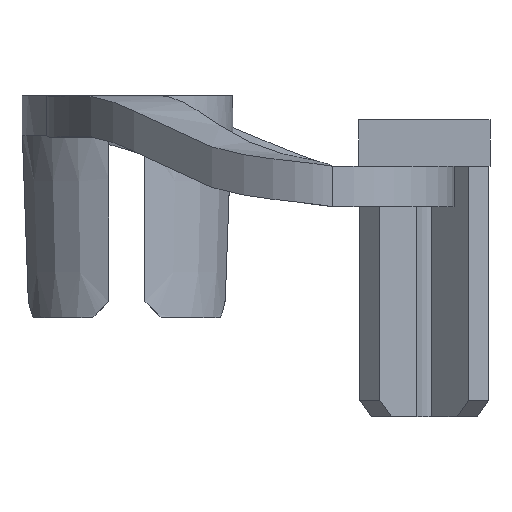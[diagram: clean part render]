
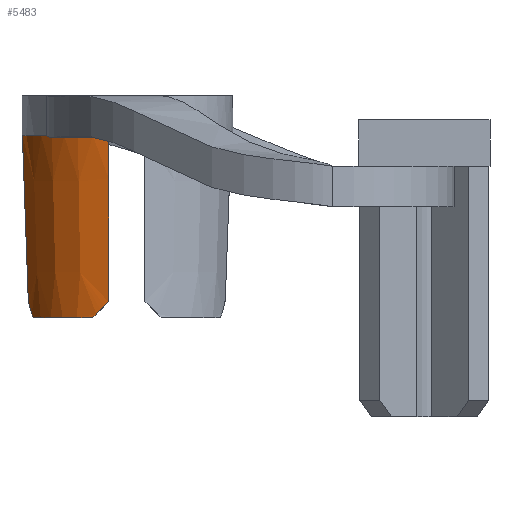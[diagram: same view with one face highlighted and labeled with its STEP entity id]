
A CAD part, left-side view. The second image highlights one B-rep face of the part: STEP entity #5483.
In plain terms, the highlighted conical face has half-angle 2 degrees and reference radius 2.62 mm.
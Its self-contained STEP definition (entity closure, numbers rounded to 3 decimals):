
#1390 = PLANE('',#1391);
#1391 = AXIS2_PLACEMENT_3D('',#1392,#1393,#1394);
#1392 = CARTESIAN_POINT('',(0.225,3.725,-1.));
#1393 = DIRECTION('',(-0.,-0.,-1.));
#1394 = DIRECTION('',(-1.,0.,0.));
#3467 = VERTEX_POINT('',#3468);
#3468 = CARTESIAN_POINT('',(-0.22,5.111,-1.));
#3482 = PLANE('',#3483);
#3483 = AXIS2_PLACEMENT_3D('',#3484,#3485,#3486);
#3484 = CARTESIAN_POINT('',(-0.22,3.667,-5.5));
#3485 = DIRECTION('',(-1.,0.,0.));
#3486 = DIRECTION('',(0.,1.,0.));
#3494 = EDGE_CURVE('',#3495,#3467,#3497,.T.);
#3495 = VERTEX_POINT('',#3496);
#3496 = CARTESIAN_POINT('',(-2.351,2.98,-1.));
#3497 = SURFACE_CURVE('',#3498,(#3503,#3510),.PCURVE_S1.);
#3498 = CIRCLE('',#3499,2.62);
#3499 = AXIS2_PLACEMENT_3D('',#3500,#3501,#3502);
#3500 = CARTESIAN_POINT('',(0.23,2.53,-1.));
#3501 = DIRECTION('',(0.,0.,-1.));
#3502 = DIRECTION('',(1.,0.,0.));
#3503 = PCURVE('',#1390,#3504);
#3504 = DEFINITIONAL_REPRESENTATION('',(#3505),#3509);
#3505 = CIRCLE('',#3506,2.62);
#3506 = AXIS2_PLACEMENT_2D('',#3507,#3508);
#3507 = CARTESIAN_POINT('',(-0.005,-1.195));
#3508 = DIRECTION('',(-1.,0.));
#3509 = ( GEOMETRIC_REPRESENTATION_CONTEXT(2) 
PARAMETRIC_REPRESENTATION_CONTEXT() REPRESENTATION_CONTEXT('2D SPACE',''
  ) );
#3510 = PCURVE('',#3511,#3516);
#3511 = CONICAL_SURFACE('',#3512,2.62,0.035);
#3512 = AXIS2_PLACEMENT_3D('',#3513,#3514,#3515);
#3513 = CARTESIAN_POINT('',(0.23,2.53,-1.));
#3514 = DIRECTION('',(0.,0.,1.));
#3515 = DIRECTION('',(1.,0.,0.));
#3516 = DEFINITIONAL_REPRESENTATION('',(#3517),#3521);
#3517 = LINE('',#3518,#3519);
#3518 = CARTESIAN_POINT('',(-0.,-0.));
#3519 = VECTOR('',#3520,1.);
#3520 = DIRECTION('',(-1.,-0.));
#3521 = ( GEOMETRIC_REPRESENTATION_CONTEXT(2) 
PARAMETRIC_REPRESENTATION_CONTEXT() REPRESENTATION_CONTEXT('2D SPACE',''
  ) );
#3539 = PLANE('',#3540);
#3540 = AXIS2_PLACEMENT_3D('',#3541,#3542,#3543);
#3541 = CARTESIAN_POINT('',(-2.907,2.98,-5.5));
#3542 = DIRECTION('',(0.,1.,0.));
#3543 = DIRECTION('',(1.,0.,0.));
#4860 = PLANE('',#4861);
#4861 = AXIS2_PLACEMENT_3D('',#4862,#4863,#4864);
#4862 = CARTESIAN_POINT('',(-0.42,4.013,-5.3));
#4863 = DIRECTION('',(-0.707,0.,0.707));
#4864 = DIRECTION('',(0.,1.,0.));
#4889 = PLANE('',#4890);
#4890 = AXIS2_PLACEMENT_3D('',#4891,#4892,#4893);
#4891 = CARTESIAN_POINT('',(0.23,2.53,-5.5));
#4892 = DIRECTION('',(0.,0.,-1.));
#4893 = DIRECTION('',(1.,0.,0.));
#4921 = PLANE('',#4922);
#4922 = AXIS2_PLACEMENT_3D('',#4923,#4924,#4925);
#4923 = CARTESIAN_POINT('',(-2.191,3.18,-5.3));
#4924 = DIRECTION('',(0.,0.707,0.707));
#4925 = DIRECTION('',(1.,0.,0.));
#5434 = EDGE_CURVE('',#5435,#3467,#5437,.T.);
#5435 = VERTEX_POINT('',#5436);
#5436 = CARTESIAN_POINT('',(-0.22,4.966,-5.1));
#5437 = SURFACE_CURVE('',#5438,(#5443,#5450),.PCURVE_S1.);
#5438 = HYPERBOLA('',#5439,12.886,0.45);
#5439 = AXIS2_PLACEMENT_3D('',#5440,#5441,#5442);
#5440 = CARTESIAN_POINT('',(-0.22,2.53,-76.027));
#5441 = DIRECTION('',(-1.,0.,0.));
#5442 = DIRECTION('',(0.,0.,1.));
#5443 = PCURVE('',#3482,#5444);
#5444 = DEFINITIONAL_REPRESENTATION('',(#5445),#5449);
#5445 = HYPERBOLA('',#5446,12.886,0.45);
#5446 = AXIS2_PLACEMENT_2D('',#5447,#5448);
#5447 = CARTESIAN_POINT('',(-1.137,70.527));
#5448 = DIRECTION('',(0.,-1.));
#5449 = ( GEOMETRIC_REPRESENTATION_CONTEXT(2) 
PARAMETRIC_REPRESENTATION_CONTEXT() REPRESENTATION_CONTEXT('2D SPACE',''
  ) );
#5450 = PCURVE('',#3511,#5451);
#5451 = DEFINITIONAL_REPRESENTATION('',(#5452),#5459);
#5452 = B_SPLINE_CURVE_WITH_KNOTS('',5,(#5453,#5454,#5455,#5456,#5457,
    #5458),.UNSPECIFIED.,.F.,.F.,(6,6),(2.385,2.447),
  .PIECEWISE_BEZIER_KNOTS.);
#5453 = CARTESIAN_POINT('',(-4.529,-4.5));
#5454 = CARTESIAN_POINT('',(-4.531,-3.628));
#5455 = CARTESIAN_POINT('',(-4.533,-2.743));
#5456 = CARTESIAN_POINT('',(-4.535,-1.843));
#5457 = CARTESIAN_POINT('',(-4.538,-0.929));
#5458 = CARTESIAN_POINT('',(-4.54,0.));
#5459 = ( GEOMETRIC_REPRESENTATION_CONTEXT(2) 
PARAMETRIC_REPRESENTATION_CONTEXT() REPRESENTATION_CONTEXT('2D SPACE',''
  ) );
#5483 = ADVANCED_FACE('',(#5484),#3511,.T.);
#5484 = FACE_BOUND('',#5485,.T.);
#5485 = EDGE_LOOP('',(#5486,#5513,#5514,#5515,#5542,#5566));
#5486 = ORIENTED_EDGE('',*,*,#5487,.F.);
#5487 = EDGE_CURVE('',#3495,#5488,#5490,.T.);
#5488 = VERTEX_POINT('',#5489);
#5489 = CARTESIAN_POINT('',(-2.206,2.98,-5.1));
#5490 = SURFACE_CURVE('',#5491,(#5496,#5506),.PCURVE_S1.);
#5491 = HYPERBOLA('',#5492,12.886,0.45);
#5492 = AXIS2_PLACEMENT_3D('',#5493,#5494,#5495);
#5493 = CARTESIAN_POINT('',(0.23,2.98,-76.027));
#5494 = DIRECTION('',(0.,1.,0.));
#5495 = DIRECTION('',(0.,0.,1.));
#5496 = PCURVE('',#3511,#5497);
#5497 = DEFINITIONAL_REPRESENTATION('',(#5498),#5505);
#5498 = B_SPLINE_CURVE_WITH_KNOTS('',5,(#5499,#5500,#5501,#5502,#5503,
    #5504),.UNSPECIFIED.,.F.,.F.,(6,6),(-2.447,-2.385)
  ,.PIECEWISE_BEZIER_KNOTS.);
#5499 = CARTESIAN_POINT('',(-3.314,0.));
#5500 = CARTESIAN_POINT('',(-3.316,-0.929));
#5501 = CARTESIAN_POINT('',(-3.319,-1.843));
#5502 = CARTESIAN_POINT('',(-3.321,-2.743));
#5503 = CARTESIAN_POINT('',(-3.323,-3.628));
#5504 = CARTESIAN_POINT('',(-3.325,-4.5));
#5505 = ( GEOMETRIC_REPRESENTATION_CONTEXT(2) 
PARAMETRIC_REPRESENTATION_CONTEXT() REPRESENTATION_CONTEXT('2D SPACE',''
  ) );
#5506 = PCURVE('',#3539,#5507);
#5507 = DEFINITIONAL_REPRESENTATION('',(#5508),#5512);
#5508 = HYPERBOLA('',#5509,12.886,0.45);
#5509 = AXIS2_PLACEMENT_2D('',#5510,#5511);
#5510 = CARTESIAN_POINT('',(3.137,70.527));
#5511 = DIRECTION('',(0.,-1.));
#5512 = ( GEOMETRIC_REPRESENTATION_CONTEXT(2) 
PARAMETRIC_REPRESENTATION_CONTEXT() REPRESENTATION_CONTEXT('2D SPACE',''
  ) );
#5513 = ORIENTED_EDGE('',*,*,#3494,.T.);
#5514 = ORIENTED_EDGE('',*,*,#5434,.F.);
#5515 = ORIENTED_EDGE('',*,*,#5516,.T.);
#5516 = EDGE_CURVE('',#5435,#5517,#5519,.T.);
#5517 = VERTEX_POINT('',#5518);
#5518 = CARTESIAN_POINT('',(-0.62,4.842,-5.5));
#5519 = SURFACE_CURVE('',#5520,(#5525,#5535),.PCURVE_S1.);
#5520 = ELLIPSE('',#5521,3.529,2.494);
#5521 = AXIS2_PLACEMENT_3D('',#5522,#5523,#5524);
#5522 = CARTESIAN_POINT('',(0.317,2.53,-4.563));
#5523 = DIRECTION('',(-0.707,0.,0.707));
#5524 = DIRECTION('',(0.707,0.,0.707));
#5525 = PCURVE('',#3511,#5526);
#5526 = DEFINITIONAL_REPRESENTATION('',(#5527),#5534);
#5527 = B_SPLINE_CURVE_WITH_KNOTS('',5,(#5528,#5529,#5530,#5531,#5532,
    #5533),.UNSPECIFIED.,.F.,.F.,(6,6),(1.788,1.956),
  .PIECEWISE_BEZIER_KNOTS.);
#5528 = CARTESIAN_POINT('',(-4.53,-4.1));
#5529 = CARTESIAN_POINT('',(-4.496,-4.182));
#5530 = CARTESIAN_POINT('',(-4.462,-4.263));
#5531 = CARTESIAN_POINT('',(-4.428,-4.343));
#5532 = CARTESIAN_POINT('',(-4.394,-4.422));
#5533 = CARTESIAN_POINT('',(-4.36,-4.5));
#5534 = ( GEOMETRIC_REPRESENTATION_CONTEXT(2) 
PARAMETRIC_REPRESENTATION_CONTEXT() REPRESENTATION_CONTEXT('2D SPACE',''
  ) );
#5535 = PCURVE('',#4860,#5536);
#5536 = DEFINITIONAL_REPRESENTATION('',(#5537),#5541);
#5537 = ELLIPSE('',#5538,3.529,2.494);
#5538 = AXIS2_PLACEMENT_2D('',#5539,#5540);
#5539 = CARTESIAN_POINT('',(-1.483,-1.042));
#5540 = DIRECTION('',(0.,-1.));
#5541 = ( GEOMETRIC_REPRESENTATION_CONTEXT(2) 
PARAMETRIC_REPRESENTATION_CONTEXT() REPRESENTATION_CONTEXT('2D SPACE',''
  ) );
#5542 = ORIENTED_EDGE('',*,*,#5543,.F.);
#5543 = EDGE_CURVE('',#5544,#5517,#5546,.T.);
#5544 = VERTEX_POINT('',#5545);
#5545 = CARTESIAN_POINT('',(-2.082,3.38,-5.5));
#5546 = SURFACE_CURVE('',#5547,(#5552,#5559),.PCURVE_S1.);
#5547 = CIRCLE('',#5548,2.463);
#5548 = AXIS2_PLACEMENT_3D('',#5549,#5550,#5551);
#5549 = CARTESIAN_POINT('',(0.23,2.53,-5.5));
#5550 = DIRECTION('',(0.,0.,-1.));
#5551 = DIRECTION('',(1.,0.,0.));
#5552 = PCURVE('',#3511,#5553);
#5553 = DEFINITIONAL_REPRESENTATION('',(#5554),#5558);
#5554 = LINE('',#5555,#5556);
#5555 = CARTESIAN_POINT('',(-0.,-4.5));
#5556 = VECTOR('',#5557,1.);
#5557 = DIRECTION('',(-1.,-0.));
#5558 = ( GEOMETRIC_REPRESENTATION_CONTEXT(2) 
PARAMETRIC_REPRESENTATION_CONTEXT() REPRESENTATION_CONTEXT('2D SPACE',''
  ) );
#5559 = PCURVE('',#4889,#5560);
#5560 = DEFINITIONAL_REPRESENTATION('',(#5561),#5565);
#5561 = CIRCLE('',#5562,2.463);
#5562 = AXIS2_PLACEMENT_2D('',#5563,#5564);
#5563 = CARTESIAN_POINT('',(0.,0.));
#5564 = DIRECTION('',(1.,0.));
#5565 = ( GEOMETRIC_REPRESENTATION_CONTEXT(2) 
PARAMETRIC_REPRESENTATION_CONTEXT() REPRESENTATION_CONTEXT('2D SPACE',''
  ) );
#5566 = ORIENTED_EDGE('',*,*,#5567,.F.);
#5567 = EDGE_CURVE('',#5488,#5544,#5568,.T.);
#5568 = SURFACE_CURVE('',#5569,(#5574,#5584),.PCURVE_S1.);
#5569 = ELLIPSE('',#5570,3.529,2.494);
#5570 = AXIS2_PLACEMENT_3D('',#5571,#5572,#5573);
#5571 = CARTESIAN_POINT('',(0.23,2.443,-4.563));
#5572 = DIRECTION('',(0.,-0.707,-0.707));
#5573 = DIRECTION('',(0.,-0.707,0.707));
#5574 = PCURVE('',#3511,#5575);
#5575 = DEFINITIONAL_REPRESENTATION('',(#5576),#5583);
#5576 = B_SPLINE_CURVE_WITH_KNOTS('',5,(#5577,#5578,#5579,#5580,#5581,
    #5582),.UNSPECIFIED.,.F.,.F.,(6,6),(1.788,1.956),
  .PIECEWISE_BEZIER_KNOTS.);
#5577 = CARTESIAN_POINT('',(-3.324,-4.1));
#5578 = CARTESIAN_POINT('',(-3.358,-4.182));
#5579 = CARTESIAN_POINT('',(-3.392,-4.263));
#5580 = CARTESIAN_POINT('',(-3.426,-4.343));
#5581 = CARTESIAN_POINT('',(-3.46,-4.422));
#5582 = CARTESIAN_POINT('',(-3.494,-4.5));
#5583 = ( GEOMETRIC_REPRESENTATION_CONTEXT(2) 
PARAMETRIC_REPRESENTATION_CONTEXT() REPRESENTATION_CONTEXT('2D SPACE',''
  ) );
#5584 = PCURVE('',#4921,#5585);
#5585 = DEFINITIONAL_REPRESENTATION('',(#5586),#5594);
#5586 = ( BOUNDED_CURVE() B_SPLINE_CURVE(2,(#5587,#5588,#5589,#5590,
#5591,#5592,#5593),.UNSPECIFIED.,.T.,.F.) B_SPLINE_CURVE_WITH_KNOTS((1,2
    ,2,2,2,1),(-2.094,0.,2.094,4.189,
6.283,8.378),.UNSPECIFIED.) CURVE() 
GEOMETRIC_REPRESENTATION_ITEM() RATIONAL_B_SPLINE_CURVE((1.,0.5,1.,0.5,
1.,0.5,1.)) REPRESENTATION_ITEM('') );
#5587 = CARTESIAN_POINT('',(2.421,-4.572));
#5588 = CARTESIAN_POINT('',(-1.898,-4.572));
#5589 = CARTESIAN_POINT('',(0.261,0.722));
#5590 = CARTESIAN_POINT('',(2.421,6.016));
#5591 = CARTESIAN_POINT('',(4.581,0.722));
#5592 = CARTESIAN_POINT('',(6.741,-4.572));
#5593 = CARTESIAN_POINT('',(2.421,-4.572));
#5594 = ( GEOMETRIC_REPRESENTATION_CONTEXT(2) 
PARAMETRIC_REPRESENTATION_CONTEXT() REPRESENTATION_CONTEXT('2D SPACE',''
  ) );
